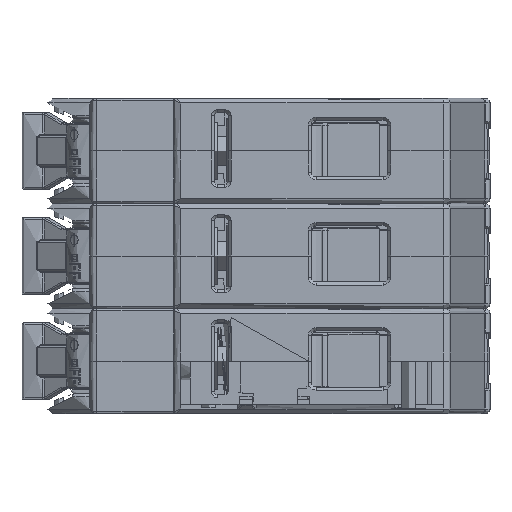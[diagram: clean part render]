
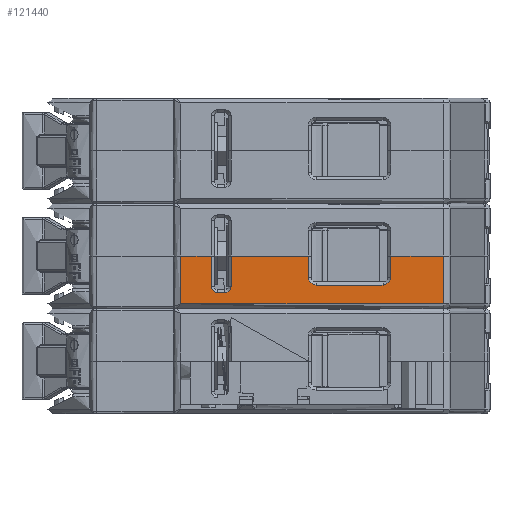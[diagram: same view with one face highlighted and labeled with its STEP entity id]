
A CAD part, left-side view. The second image highlights one B-rep face of the part: STEP entity #121440.
In plain terms, the highlighted planar face has unit normal (-1, 0, 0).
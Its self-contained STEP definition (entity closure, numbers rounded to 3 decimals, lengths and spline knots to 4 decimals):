
#7522=FACE_OUTER_BOUND($,#13693,.T.);
#13693=EDGE_LOOP($,(#94567,#94568,#94569,#94570,#94571,#94572,#94573,#94574,
#94575,#94576,#94577,#94578,#94579,#94580,#94581,#94582));
#19179=CIRCLE($,#128814,0.051);
#19180=CIRCLE($,#128816,0.04);
#19181=CIRCLE($,#128817,0.04);
#19182=CIRCLE($,#128818,0.051);
#25485=LINE($,#192499,#39439);
#25486=LINE($,#192502,#39440);
#26158=LINE($,#195593,#40112);
#26159=LINE($,#195595,#40113);
#26160=LINE($,#195597,#40114);
#26161=LINE($,#195601,#40115);
#26162=LINE($,#195605,#40116);
#26163=LINE($,#195607,#40117);
#26164=LINE($,#195609,#40118);
#26165=LINE($,#195611,#40119);
#26166=LINE($,#195612,#40120);
#26167=LINE($,#195614,#40121);
#39439=VECTOR($,#145479,0.139);
#39440=VECTOR($,#145482,0.3436);
#40112=VECTOR($,#146890,0.139);
#40113=VECTOR($,#146891,0.505);
#40114=VECTOR($,#146892,0.2);
#40115=VECTOR($,#146895,0.05);
#40116=VECTOR($,#146898,0.2);
#40117=VECTOR($,#146899,0.199);
#40118=VECTOR($,#146900,0.313);
#40119=VECTOR($,#146901,1.7176);
#40120=VECTOR($,#146902,0.313);
#40121=VECTOR($,#146903,0.438);
#53288=VERTEX_POINT($,#192495);
#53289=VERTEX_POINT($,#192497);
#53290=VERTEX_POINT($,#192501);
#53935=VERTEX_POINT($,#195587);
#53936=VERTEX_POINT($,#195591);
#53937=VERTEX_POINT($,#195592);
#53938=VERTEX_POINT($,#195594);
#53939=VERTEX_POINT($,#195596);
#53940=VERTEX_POINT($,#195598);
#53941=VERTEX_POINT($,#195600);
#53942=VERTEX_POINT($,#195602);
#53943=VERTEX_POINT($,#195604);
#53944=VERTEX_POINT($,#195606);
#53945=VERTEX_POINT($,#195608);
#53946=VERTEX_POINT($,#195610);
#53947=VERTEX_POINT($,#195613);
#68770=EDGE_CURVE($,#53289,#53288,#25485,.T.);
#68771=EDGE_CURVE($,#53288,#53290,#25486,.T.);
#69657=EDGE_CURVE($,#53935,#53289,#19179,.T.);
#69659=EDGE_CURVE($,#53936,#53937,#26158,.T.);
#69660=EDGE_CURVE($,#53938,#53936,#26159,.T.);
#69661=EDGE_CURVE($,#53938,#53939,#26160,.T.);
#69662=EDGE_CURVE($,#53940,#53939,#19180,.T.);
#69663=EDGE_CURVE($,#53941,#53940,#26161,.T.);
#69664=EDGE_CURVE($,#53942,#53941,#19181,.T.);
#69665=EDGE_CURVE($,#53943,#53942,#26162,.T.);
#69666=EDGE_CURVE($,#53944,#53943,#26163,.T.);
#69667=EDGE_CURVE($,#53944,#53945,#26164,.T.);
#69668=EDGE_CURVE($,#53945,#53946,#26165,.T.);
#69669=EDGE_CURVE($,#53946,#53290,#26166,.T.);
#69670=EDGE_CURVE($,#53935,#53947,#26167,.T.);
#69671=EDGE_CURVE($,#53937,#53947,#19182,.T.);
#94567=ORIENTED_EDGE($,*,*,#69659,.F.);
#94568=ORIENTED_EDGE($,*,*,#69660,.F.);
#94569=ORIENTED_EDGE($,*,*,#69661,.T.);
#94570=ORIENTED_EDGE($,*,*,#69662,.F.);
#94571=ORIENTED_EDGE($,*,*,#69663,.F.);
#94572=ORIENTED_EDGE($,*,*,#69664,.F.);
#94573=ORIENTED_EDGE($,*,*,#69665,.F.);
#94574=ORIENTED_EDGE($,*,*,#69666,.F.);
#94575=ORIENTED_EDGE($,*,*,#69667,.T.);
#94576=ORIENTED_EDGE($,*,*,#69668,.T.);
#94577=ORIENTED_EDGE($,*,*,#69669,.T.);
#94578=ORIENTED_EDGE($,*,*,#68771,.F.);
#94579=ORIENTED_EDGE($,*,*,#68770,.F.);
#94580=ORIENTED_EDGE($,*,*,#69657,.F.);
#94581=ORIENTED_EDGE($,*,*,#69670,.T.);
#94582=ORIENTED_EDGE($,*,*,#69671,.F.);
#117047=PLANE($,#128815);
#121440=ADVANCED_FACE($,(#7522),#117047,.F.);
#128814=AXIS2_PLACEMENT_3D($,#195588,#146885,#146886);
#128815=AXIS2_PLACEMENT_3D($,#195590,#146888,#146889);
#128816=AXIS2_PLACEMENT_3D($,#195599,#146893,#146894);
#128817=AXIS2_PLACEMENT_3D($,#195603,#146896,#146897);
#128818=AXIS2_PLACEMENT_3D($,#195615,#146904,#146905);
#145479=DIRECTION($,(0.,0.,1.));
#145482=DIRECTION($,(0.,-1.,0.));
#146885=DIRECTION('center_axis',(-1.,0.,0.));
#146886=DIRECTION('ref_axis',(0.,0.,-1.));
#146888=DIRECTION('center_axis',(1.,0.,0.));
#146889=DIRECTION('ref_axis',(0.,-1.,0.));
#146890=DIRECTION($,(0.,0.,-1.));
#146891=DIRECTION($,(0.,-1.,0.));
#146892=DIRECTION($,(0.,0.,-1.));
#146893=DIRECTION('center_axis',(-1.,0.,0.));
#146894=DIRECTION('ref_axis',(0.,0.,-1.));
#146895=DIRECTION($,(0.,-1.,0.));
#146896=DIRECTION('center_axis',(-1.,0.,0.));
#146897=DIRECTION('ref_axis',(0.,0.,-1.));
#146898=DIRECTION($,(0.,0.,-1.));
#146899=DIRECTION($,(0.,-1.,0.));
#146900=DIRECTION($,(0.,0.,-1.));
#146901=DIRECTION($,(0.,-1.,0.));
#146902=DIRECTION($,(0.,0.,1.));
#146903=DIRECTION($,(0.,1.,0.));
#146904=DIRECTION('center_axis',(-1.,0.,0.));
#146905=DIRECTION('ref_axis',(0.,0.,-1.));
#192495=CARTESIAN_POINT('',(-1.73,-1.231,-0.688));
#192497=CARTESIAN_POINT('',(-1.73,-1.231,-0.827));
#192499=CARTESIAN_POINT($,(-1.73,-1.231,-0.801));
#192501=CARTESIAN_POINT('',(-1.73,-1.5746,-0.688));
#192502=CARTESIAN_POINT($,(-1.73,-1.231,-0.688));
#195587=CARTESIAN_POINT('',(-1.73,-1.18,-0.878));
#195588=CARTESIAN_POINT('Origin',(-1.73,-1.18,-0.827));
#195590=CARTESIAN_POINT('Origin',(-1.73,-0.7158,-0.8445));
#195591=CARTESIAN_POINT('',(-1.73,-0.691,-0.688));
#195592=CARTESIAN_POINT('',(-1.73,-0.691,-0.827));
#195593=CARTESIAN_POINT($,(-1.73,-0.691,-0.801));
#195594=CARTESIAN_POINT('',(-1.73,-0.186,-0.688));
#195595=CARTESIAN_POINT($,(-1.73,-0.186,-0.688));
#195596=CARTESIAN_POINT('',(-1.73,-0.186,-0.888));
#195597=CARTESIAN_POINT($,(-1.73,-0.186,-0.8162));
#195598=CARTESIAN_POINT('',(-1.73,-0.146,-0.928));
#195599=CARTESIAN_POINT('Origin',(-1.73,-0.146,-0.888));
#195600=CARTESIAN_POINT('',(-1.73,-0.096,-0.928));
#195601=CARTESIAN_POINT($,(-1.73,-0.4184,-0.928));
#195602=CARTESIAN_POINT('',(-1.73,-0.056,-0.888));
#195603=CARTESIAN_POINT('Origin',(-1.73,-0.096,-0.888));
#195604=CARTESIAN_POINT('',(-1.73,-0.056,-0.688));
#195605=CARTESIAN_POINT($,(-1.73,-0.056,-0.8162));
#195606=CARTESIAN_POINT('',(-1.73,0.143,-0.688));
#195607=CARTESIAN_POINT($,(-1.73,0.143,-0.688));
#195608=CARTESIAN_POINT('',(-1.73,0.143,-1.001));
#195609=CARTESIAN_POINT($,(-1.73,0.143,-0.688));
#195610=CARTESIAN_POINT('',(-1.73,-1.5746,-1.001));
#195611=CARTESIAN_POINT($,(-1.73,0.143,-1.001));
#195612=CARTESIAN_POINT($,(-1.73,-1.5746,-1.001));
#195613=CARTESIAN_POINT('',(-1.73,-0.742,-0.878));
#195614=CARTESIAN_POINT($,(-1.73,-0.8384,-0.878));
#195615=CARTESIAN_POINT('Origin',(-1.73,-0.742,-0.827));
